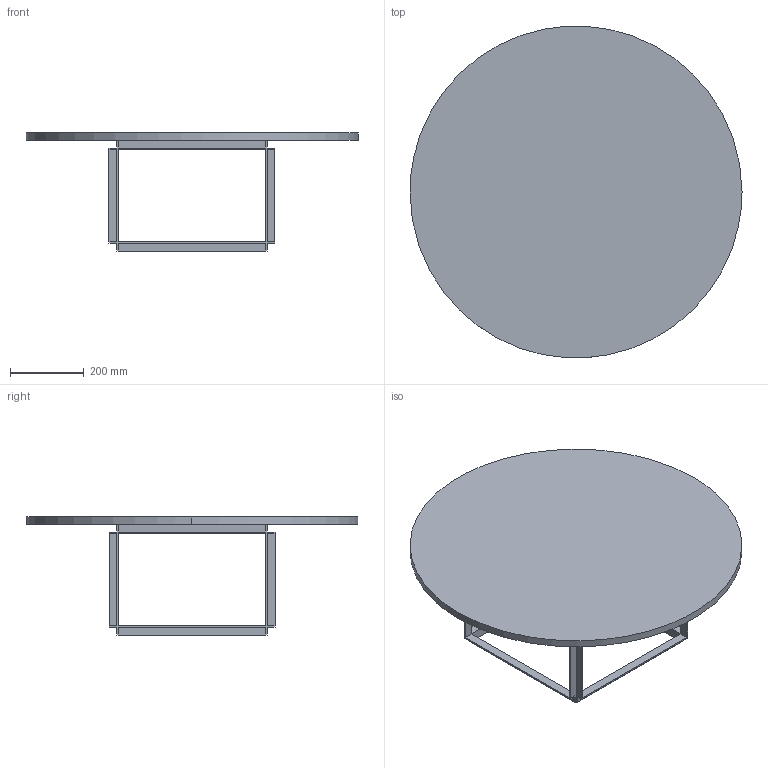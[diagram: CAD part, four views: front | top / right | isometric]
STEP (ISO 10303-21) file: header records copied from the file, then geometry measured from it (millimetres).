
FILE_DESCRIPTION(/* description */ (''),/* implementation_level */ '2;1');
FILE_NAME(/* name */ 'Florence Coffee Table Ø90',/* time_stamp */ '2020-08-28T23:50:50+02:00',/* author */ (''),/* organization */ (''),/* preprocessor_version */ 'ST-DEVELOPER v15',/* originating_system */ '',/* authorisation */ '');
FILE_SCHEMA (('AUTOMOTIVE_DESIGN'));
Length unit declared in the file: millimetre
Products named in the file (1): Document
Bounding box: 900 x 898.17 x 320 mm (x, y, z)
Volume: 13530594.9 mm3; surface area: 1753217.5 mm2
Topology: 2 solids, 2 shells, 148 faces, 318 edges, 164 vertices
Faces by surface type: plane 146, bspline 2
Entity records: 3128 total; most frequent: CARTESIAN_POINT 932, ORIENTED_EDGE 636, EDGE_CURVE 318, B_SPLINE_CURVE_WITH_KNOTS 312, VERTEX_POINT 164, ADVANCED_FACE 148, FACE_OUTER_BOUND 148, EDGE_LOOP 148
